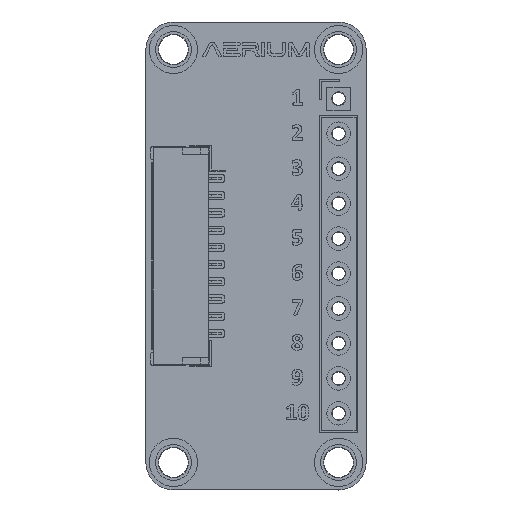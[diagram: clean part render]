
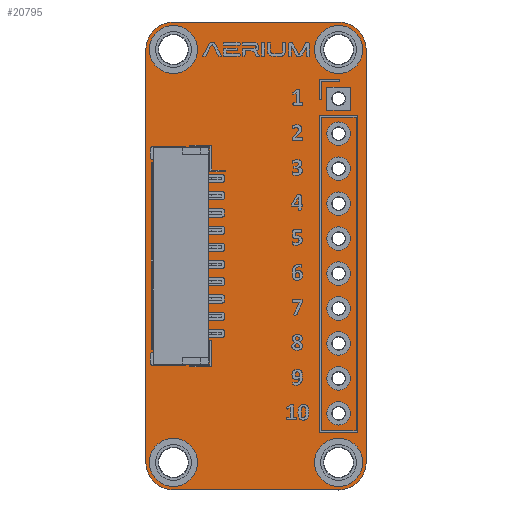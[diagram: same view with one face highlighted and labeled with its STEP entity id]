
A CAD part, top view. The second image highlights one B-rep face of the part: STEP entity #20795.
In plain terms, the highlighted planar face has unit normal (0, 0, 1).
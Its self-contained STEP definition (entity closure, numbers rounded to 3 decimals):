
#583=CIRCLE('',#22175,2.);
#602=CIRCLE('',#22198,2.);
#603=CIRCLE('',#22199,2.);
#604=CIRCLE('',#22200,2.);
#605=CIRCLE('',#22201,1.1);
#606=CIRCLE('',#22202,1.1);
#607=CIRCLE('',#22203,0.5);
#608=CIRCLE('',#22204,0.5);
#609=CIRCLE('',#22205,0.5);
#610=CIRCLE('',#22206,0.5);
#611=CIRCLE('',#22207,0.5);
#612=CIRCLE('',#22208,1.1);
#613=CIRCLE('',#22209,0.5);
#614=CIRCLE('',#22210,0.5);
#615=CIRCLE('',#22211,0.5);
#616=CIRCLE('',#22212,0.5);
#617=CIRCLE('',#22213,0.5);
#618=CIRCLE('',#22214,1.1);
#998=FACE_BOUND('',#2718,.T.);
#999=FACE_BOUND('',#2719,.T.);
#1000=FACE_BOUND('',#2720,.T.);
#1001=FACE_BOUND('',#2721,.T.);
#1002=FACE_BOUND('',#2722,.T.);
#1003=FACE_BOUND('',#2723,.T.);
#1004=FACE_BOUND('',#2724,.T.);
#1005=FACE_BOUND('',#2725,.T.);
#1006=FACE_BOUND('',#2726,.T.);
#1007=FACE_BOUND('',#2727,.T.);
#1008=FACE_BOUND('',#2728,.T.);
#1009=FACE_BOUND('',#2729,.T.);
#1010=FACE_BOUND('',#2730,.T.);
#1011=FACE_BOUND('',#2731,.T.);
#1782=FACE_OUTER_BOUND('',#2717,.T.);
#2717=EDGE_LOOP('',(#18755,#18756,#18757,#18758,#18759,#18760,#18761,#18762));
#2718=EDGE_LOOP('',(#18763));
#2719=EDGE_LOOP('',(#18764));
#2720=EDGE_LOOP('',(#18765));
#2721=EDGE_LOOP('',(#18766));
#2722=EDGE_LOOP('',(#18767));
#2723=EDGE_LOOP('',(#18768));
#2724=EDGE_LOOP('',(#18769));
#2725=EDGE_LOOP('',(#18770));
#2726=EDGE_LOOP('',(#18771));
#2727=EDGE_LOOP('',(#18772));
#2728=EDGE_LOOP('',(#18773));
#2729=EDGE_LOOP('',(#18774));
#2730=EDGE_LOOP('',(#18775));
#2731=EDGE_LOOP('',(#18776));
#5405=LINE('',#33969,#8086);
#5407=LINE('',#33973,#8088);
#5412=LINE('',#34019,#8093);
#5413=LINE('',#34023,#8094);
#8086=VECTOR('',#27380,1.);
#8088=VECTOR('',#27384,1.);
#8093=VECTOR('',#27429,1.);
#8094=VECTOR('',#27432,1.);
#10649=VERTEX_POINT('',#33958);
#10650=VERTEX_POINT('',#33960);
#10653=VERTEX_POINT('',#33967);
#10654=VERTEX_POINT('',#33972);
#10674=VERTEX_POINT('',#34016);
#10675=VERTEX_POINT('',#34018);
#10676=VERTEX_POINT('',#34020);
#10677=VERTEX_POINT('',#34022);
#10678=VERTEX_POINT('',#34025);
#10679=VERTEX_POINT('',#34027);
#10680=VERTEX_POINT('',#34029);
#10681=VERTEX_POINT('',#34031);
#10682=VERTEX_POINT('',#34033);
#10683=VERTEX_POINT('',#34035);
#10684=VERTEX_POINT('',#34037);
#10685=VERTEX_POINT('',#34039);
#10686=VERTEX_POINT('',#34041);
#10687=VERTEX_POINT('',#34043);
#10688=VERTEX_POINT('',#34045);
#10689=VERTEX_POINT('',#34047);
#10690=VERTEX_POINT('',#34049);
#10691=VERTEX_POINT('',#34051);
#13811=EDGE_CURVE('',#10649,#10650,#583,.T.);
#13815=EDGE_CURVE('',#10653,#10649,#5405,.T.);
#13817=EDGE_CURVE('',#10650,#10654,#5407,.T.);
#13839=EDGE_CURVE('',#10674,#10653,#602,.T.);
#13840=EDGE_CURVE('',#10675,#10674,#5412,.T.);
#13841=EDGE_CURVE('',#10676,#10675,#603,.T.);
#13842=EDGE_CURVE('',#10677,#10676,#5413,.T.);
#13843=EDGE_CURVE('',#10654,#10677,#604,.T.);
#13844=EDGE_CURVE('',#10678,#10678,#605,.T.);
#13845=EDGE_CURVE('',#10679,#10679,#606,.T.);
#13846=EDGE_CURVE('',#10680,#10680,#607,.T.);
#13847=EDGE_CURVE('',#10681,#10681,#608,.T.);
#13848=EDGE_CURVE('',#10682,#10682,#609,.T.);
#13849=EDGE_CURVE('',#10683,#10683,#610,.T.);
#13850=EDGE_CURVE('',#10684,#10684,#611,.T.);
#13851=EDGE_CURVE('',#10685,#10685,#612,.T.);
#13852=EDGE_CURVE('',#10686,#10686,#613,.T.);
#13853=EDGE_CURVE('',#10687,#10687,#614,.T.);
#13854=EDGE_CURVE('',#10688,#10688,#615,.T.);
#13855=EDGE_CURVE('',#10689,#10689,#616,.T.);
#13856=EDGE_CURVE('',#10690,#10690,#617,.T.);
#13857=EDGE_CURVE('',#10691,#10691,#618,.T.);
#18755=ORIENTED_EDGE('',*,*,#13811,.F.);
#18756=ORIENTED_EDGE('',*,*,#13815,.F.);
#18757=ORIENTED_EDGE('',*,*,#13839,.F.);
#18758=ORIENTED_EDGE('',*,*,#13840,.F.);
#18759=ORIENTED_EDGE('',*,*,#13841,.F.);
#18760=ORIENTED_EDGE('',*,*,#13842,.F.);
#18761=ORIENTED_EDGE('',*,*,#13843,.F.);
#18762=ORIENTED_EDGE('',*,*,#13817,.F.);
#18763=ORIENTED_EDGE('',*,*,#13844,.T.);
#18764=ORIENTED_EDGE('',*,*,#13845,.T.);
#18765=ORIENTED_EDGE('',*,*,#13846,.T.);
#18766=ORIENTED_EDGE('',*,*,#13847,.T.);
#18767=ORIENTED_EDGE('',*,*,#13848,.T.);
#18768=ORIENTED_EDGE('',*,*,#13849,.T.);
#18769=ORIENTED_EDGE('',*,*,#13850,.T.);
#18770=ORIENTED_EDGE('',*,*,#13851,.T.);
#18771=ORIENTED_EDGE('',*,*,#13852,.T.);
#18772=ORIENTED_EDGE('',*,*,#13853,.T.);
#18773=ORIENTED_EDGE('',*,*,#13854,.T.);
#18774=ORIENTED_EDGE('',*,*,#13855,.T.);
#18775=ORIENTED_EDGE('',*,*,#13856,.T.);
#18776=ORIENTED_EDGE('',*,*,#13857,.T.);
#19476=PLANE('',#22197);
#20795=ADVANCED_FACE('',(#1782,#998,#999,#1000,#1001,#1002,#1003,#1004,
#1005,#1006,#1007,#1008,#1009,#1010,#1011),#19476,.T.);
#22175=AXIS2_PLACEMENT_3D('',#33961,#27372,#27373);
#22197=AXIS2_PLACEMENT_3D('',#34015,#27425,#27426);
#22198=AXIS2_PLACEMENT_3D('',#34017,#27427,#27428);
#22199=AXIS2_PLACEMENT_3D('',#34021,#27430,#27431);
#22200=AXIS2_PLACEMENT_3D('',#34024,#27433,#27434);
#22201=AXIS2_PLACEMENT_3D('',#34026,#27435,#27436);
#22202=AXIS2_PLACEMENT_3D('',#34028,#27437,#27438);
#22203=AXIS2_PLACEMENT_3D('',#34030,#27439,#27440);
#22204=AXIS2_PLACEMENT_3D('',#34032,#27441,#27442);
#22205=AXIS2_PLACEMENT_3D('',#34034,#27443,#27444);
#22206=AXIS2_PLACEMENT_3D('',#34036,#27445,#27446);
#22207=AXIS2_PLACEMENT_3D('',#34038,#27447,#27448);
#22208=AXIS2_PLACEMENT_3D('',#34040,#27449,#27450);
#22209=AXIS2_PLACEMENT_3D('',#34042,#27451,#27452);
#22210=AXIS2_PLACEMENT_3D('',#34044,#27453,#27454);
#22211=AXIS2_PLACEMENT_3D('',#34046,#27455,#27456);
#22212=AXIS2_PLACEMENT_3D('',#34048,#27457,#27458);
#22213=AXIS2_PLACEMENT_3D('',#34050,#27459,#27460);
#22214=AXIS2_PLACEMENT_3D('',#34052,#27461,#27462);
#27372=DIRECTION('center_axis',(0.,0.,-1.));
#27373=DIRECTION('ref_axis',(0.,1.,0.));
#27380=DIRECTION('',(1.,0.,0.));
#27384=DIRECTION('',(0.,-1.,0.));
#27425=DIRECTION('center_axis',(0.,0.,1.));
#27426=DIRECTION('ref_axis',(1.,0.,0.));
#27427=DIRECTION('center_axis',(0.,0.,-1.));
#27428=DIRECTION('ref_axis',(-1.,0.,0.));
#27429=DIRECTION('',(0.,1.,0.));
#27430=DIRECTION('center_axis',(0.,0.,-1.));
#27431=DIRECTION('ref_axis',(0.,-1.,0.));
#27432=DIRECTION('',(-1.,0.,0.));
#27433=DIRECTION('center_axis',(0.,0.,-1.));
#27434=DIRECTION('ref_axis',(1.,0.,0.));
#27435=DIRECTION('center_axis',(0.,0.,-1.));
#27436=DIRECTION('ref_axis',(0.,-1.,0.));
#27437=DIRECTION('center_axis',(0.,0.,-1.));
#27438=DIRECTION('ref_axis',(0.,-1.,0.));
#27439=DIRECTION('center_axis',(0.,0.,-1.));
#27440=DIRECTION('ref_axis',(0.,-1.,0.));
#27441=DIRECTION('center_axis',(0.,0.,-1.));
#27442=DIRECTION('ref_axis',(0.,-1.,0.));
#27443=DIRECTION('center_axis',(0.,0.,-1.));
#27444=DIRECTION('ref_axis',(0.,-1.,0.));
#27445=DIRECTION('center_axis',(0.,0.,-1.));
#27446=DIRECTION('ref_axis',(0.,-1.,0.));
#27447=DIRECTION('center_axis',(0.,0.,-1.));
#27448=DIRECTION('ref_axis',(0.,-1.,0.));
#27449=DIRECTION('center_axis',(0.,0.,-1.));
#27450=DIRECTION('ref_axis',(0.,-1.,0.));
#27451=DIRECTION('center_axis',(0.,0.,-1.));
#27452=DIRECTION('ref_axis',(0.,-1.,0.));
#27453=DIRECTION('center_axis',(0.,0.,-1.));
#27454=DIRECTION('ref_axis',(0.,-1.,0.));
#27455=DIRECTION('center_axis',(0.,0.,-1.));
#27456=DIRECTION('ref_axis',(0.,-1.,0.));
#27457=DIRECTION('center_axis',(0.,0.,-1.));
#27458=DIRECTION('ref_axis',(0.,-1.,0.));
#27459=DIRECTION('center_axis',(0.,0.,-1.));
#27460=DIRECTION('ref_axis',(0.,-1.,0.));
#27461=DIRECTION('center_axis',(0.,0.,-1.));
#27462=DIRECTION('ref_axis',(0.,-1.,0.));
#33958=CARTESIAN_POINT('',(13.,6.,1.51));
#33960=CARTESIAN_POINT('',(15.,4.,1.51));
#33961=CARTESIAN_POINT('Origin',(13.,4.,1.51));
#33967=CARTESIAN_POINT('',(1.,6.,1.51));
#33969=CARTESIAN_POINT('',(1.,6.,1.51));
#33972=CARTESIAN_POINT('',(15.,-26.,1.51));
#33973=CARTESIAN_POINT('',(15.,4.,1.51));
#34015=CARTESIAN_POINT('Origin',(0.,0.,1.51));
#34016=CARTESIAN_POINT('',(-1.,4.,1.51));
#34017=CARTESIAN_POINT('Origin',(1.,4.,1.51));
#34018=CARTESIAN_POINT('',(-1.,-26.,1.51));
#34019=CARTESIAN_POINT('',(-1.,-26.,1.51));
#34020=CARTESIAN_POINT('',(1.,-28.,1.51));
#34021=CARTESIAN_POINT('Origin',(1.,-26.,1.51));
#34022=CARTESIAN_POINT('',(13.,-28.,1.51));
#34023=CARTESIAN_POINT('',(13.,-28.,1.51));
#34024=CARTESIAN_POINT('Origin',(13.,-26.,1.51));
#34025=CARTESIAN_POINT('',(1.,-24.9,1.51));
#34026=CARTESIAN_POINT('Origin',(1.,-26.,1.51));
#34027=CARTESIAN_POINT('',(13.,-24.9,1.51));
#34028=CARTESIAN_POINT('Origin',(13.,-26.,1.51));
#34029=CARTESIAN_POINT('',(13.,-21.935,1.51));
#34030=CARTESIAN_POINT('Origin',(13.,-22.435,1.51));
#34031=CARTESIAN_POINT('',(13.,-19.395,1.51));
#34032=CARTESIAN_POINT('Origin',(13.,-19.895,1.51));
#34033=CARTESIAN_POINT('',(13.,-16.855,1.51));
#34034=CARTESIAN_POINT('Origin',(13.,-17.355,1.51));
#34035=CARTESIAN_POINT('',(13.,-14.315,1.51));
#34036=CARTESIAN_POINT('Origin',(13.,-14.815,1.51));
#34037=CARTESIAN_POINT('',(13.,-11.775,1.51));
#34038=CARTESIAN_POINT('Origin',(13.,-12.275,1.51));
#34039=CARTESIAN_POINT('',(1.,5.1,1.51));
#34040=CARTESIAN_POINT('Origin',(1.,4.,1.51));
#34041=CARTESIAN_POINT('',(13.,-9.235,1.51));
#34042=CARTESIAN_POINT('Origin',(13.,-9.735,1.51));
#34043=CARTESIAN_POINT('',(13.,-6.695,1.51));
#34044=CARTESIAN_POINT('Origin',(13.,-7.195,1.51));
#34045=CARTESIAN_POINT('',(13.,-4.155,1.51));
#34046=CARTESIAN_POINT('Origin',(13.,-4.655,1.51));
#34047=CARTESIAN_POINT('',(13.,-1.615,1.51));
#34048=CARTESIAN_POINT('Origin',(13.,-2.115,1.51));
#34049=CARTESIAN_POINT('',(13.,0.925,1.51));
#34050=CARTESIAN_POINT('Origin',(13.,0.425,1.51));
#34051=CARTESIAN_POINT('',(13.,5.1,1.51));
#34052=CARTESIAN_POINT('Origin',(13.,4.,1.51));
